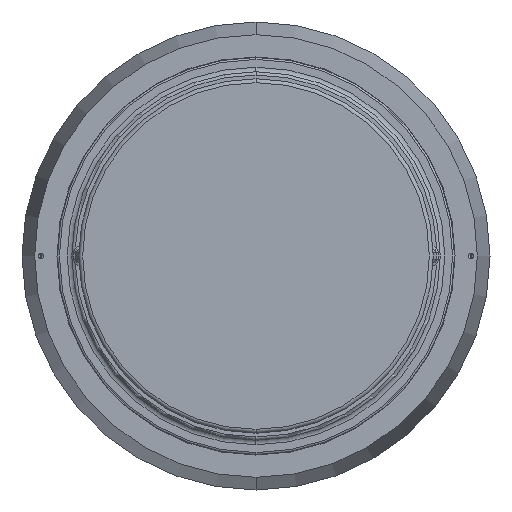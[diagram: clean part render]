
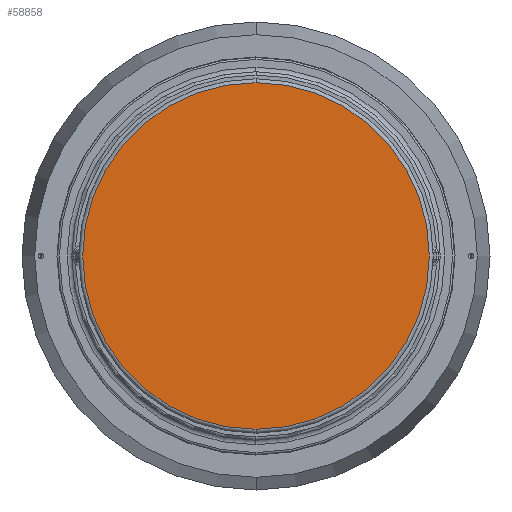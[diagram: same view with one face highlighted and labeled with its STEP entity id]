
A CAD part, front view. The second image highlights one B-rep face of the part: STEP entity #58858.
In plain terms, the highlighted planar face has unit normal (0, -1, 0).
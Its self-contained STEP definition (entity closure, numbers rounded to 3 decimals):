
#327 = CIRCLE ( 'NONE', #96391, 266.25 ) ;
#5070 = CARTESIAN_POINT ( 'NONE',  ( 0., -784.4, 0. ) ) ;
#5716 = VERTEX_POINT ( 'NONE', #126629 ) ;
#5814 = EDGE_CURVE ( 'NONE', #102069, #5716, #327, .T. ) ;
#16256 = DIRECTION ( 'NONE',  ( 0., 0., 1. ) ) ;
#21200 = EDGE_LOOP ( 'NONE', ( #135143, #132122 ) ) ;
#21533 = CARTESIAN_POINT ( 'NONE',  ( -266.25, -784.4, 0. ) ) ;
#32174 = PLANE ( 'NONE',  #49846 ) ;
#32662 = DIRECTION ( 'NONE',  ( 0., 0., -1. ) ) ;
#46505 = DIRECTION ( 'NONE',  ( 0., -1., 0. ) ) ;
#49846 = AXIS2_PLACEMENT_3D ( 'NONE', #21533, #99276, #32662 ) ;
#58858 = ADVANCED_FACE ( 'NONE', ( #140113 ), #32174, .T. ) ;
#63986 = CARTESIAN_POINT ( 'NONE',  ( 0., -784.4, -266.25 ) ) ;
#78003 = AXIS2_PLACEMENT_3D ( 'NONE', #113081, #46505, #124276 ) ;
#82828 = DIRECTION ( 'NONE',  ( 0., -1., 0. ) ) ;
#96391 = AXIS2_PLACEMENT_3D ( 'NONE', #5070, #82828, #16256 ) ;
#99276 = DIRECTION ( 'NONE',  ( 0., -1., 0. ) ) ;
#102069 = VERTEX_POINT ( 'NONE', #63986 ) ;
#113081 = CARTESIAN_POINT ( 'NONE',  ( 0., -784.4, 0. ) ) ;
#113540 = EDGE_CURVE ( 'NONE', #5716, #102069, #125053, .T. ) ;
#124276 = DIRECTION ( 'NONE',  ( 0., 0., 1. ) ) ;
#125053 = CIRCLE ( 'NONE', #78003, 266.25 ) ;
#126629 = CARTESIAN_POINT ( 'NONE',  ( 0., -784.4, 266.25 ) ) ;
#132122 = ORIENTED_EDGE ( 'NONE', *, *, #5814, .T. ) ;
#135143 = ORIENTED_EDGE ( 'NONE', *, *, #113540, .T. ) ;
#140113 = FACE_OUTER_BOUND ( 'NONE', #21200, .T. ) ;
